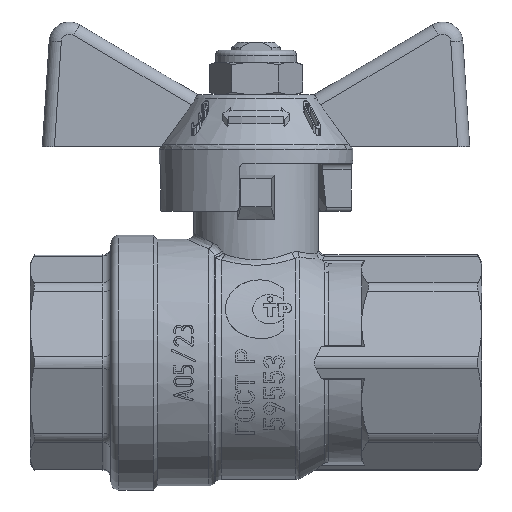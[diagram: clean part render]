
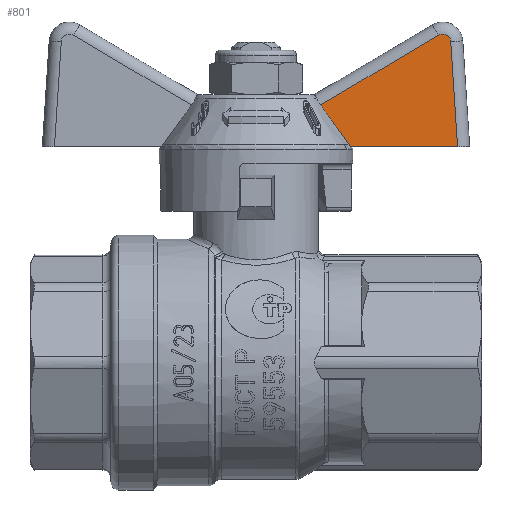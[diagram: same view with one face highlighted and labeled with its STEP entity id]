
A CAD part, left-side view. The second image highlights one B-rep face of the part: STEP entity #801.
In plain terms, the highlighted planar face has unit normal (-1, 0, 0).
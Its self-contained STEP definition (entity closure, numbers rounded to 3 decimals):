
#801=ADVANCED_FACE('',(#7025),#7027,.T.);
#7025=FACE_BOUND('',#7026,.T.);
#7026=EDGE_LOOP('',(#16450,#16451,#16452,#16453,#16454,#16455));
#7027=PLANE('',#7028);
#7028=AXIS2_PLACEMENT_3D('',#7029,#7030,#7031);
#7029=CARTESIAN_POINT('',(-2.5,-15.5,26.75));
#7030=DIRECTION('',(-1.,0.,0.));
#7031=DIRECTION('',(0.,-1.,0.));
#16450=ORIENTED_EDGE('',*,*,#22059,.T.);
#16451=ORIENTED_EDGE('',*,*,#22060,.T.);
#16452=ORIENTED_EDGE('',*,*,#22061,.T.);
#16453=ORIENTED_EDGE('',*,*,#22062,.T.);
#16454=ORIENTED_EDGE('',*,*,#21884,.T.);
#16455=ORIENTED_EDGE('',*,*,#22055,.T.);
#21884=EDGE_CURVE('',#27483,#27481,#27484,.F.);
#22055=EDGE_CURVE('',#27481,#27707,#27710,.T.);
#22059=EDGE_CURVE('',#27707,#27716,#27717,.T.);
#22060=EDGE_CURVE('',#27716,#27718,#27719,.T.);
#22061=EDGE_CURVE('',#27718,#27720,#27721,.T.);
#22062=EDGE_CURVE('',#27720,#27483,#27722,.T.);
#27481=VERTEX_POINT('',#48881);
#27483=VERTEX_POINT('',#48886);
#27484=B_SPLINE_CURVE_WITH_KNOTS('',3,
(#48887,#48888,#48889,#48890,#48891,#48892,#48893,#48894,#48895,#48896),
.UNSPECIFIED.,.F.,.F.,
(4,1,1,1,1,1,1,4),
(0.,0.213,0.411,0.593,0.639,0.784,
0.926,1.),
.UNSPECIFIED.);
#27707=VERTEX_POINT('',#49705);
#27710=LINE('',#49711,#49712);
#27716=VERTEX_POINT('',#49726);
#27717=LINE('',#49727,#49728);
#27718=VERTEX_POINT('',#49730);
#27719=CIRCLE('',#49731,1.);
#27720=VERTEX_POINT('',#49735);
#27721=LINE('',#49736,#49737);
#27722=B_SPLINE_CURVE_WITH_KNOTS('',3,
(#49739,#49740,#49741,#49742,#49743,#49744,#49745,#49746,#49747,#49748,#49749,#49750,
#49751,#49752),
.UNSPECIFIED.,.F.,.F.,
(4,1,1,1,1,1,1,1,1,1,1,4),
(0.,0.106,0.107,0.24,0.317,0.427,
0.505,0.634,0.678,0.833,0.882,
1.),
.UNSPECIFIED.);
#48881=CARTESIAN_POINT('',(-2.5,-27.186,26.75));
#48886=CARTESIAN_POINT('',(-2.5,-27.055,27.007));
#48887=CARTESIAN_POINT('',(-2.5,-27.186,26.75));
#48888=CARTESIAN_POINT('',(-2.5,-27.179,26.769));
#48889=CARTESIAN_POINT('',(-2.5,-27.165,26.807));
#48890=CARTESIAN_POINT('',(-2.5,-27.142,26.859));
#48891=CARTESIAN_POINT('',(-2.5,-27.123,26.896));
#48892=CARTESIAN_POINT('',(-2.5,-27.106,26.927));
#48893=CARTESIAN_POINT('',(-2.5,-27.09,26.955));
#48894=CARTESIAN_POINT('',(-2.5,-27.071,26.984));
#48895=CARTESIAN_POINT('',(-2.5,-27.059,27.001));
#48896=CARTESIAN_POINT('',(-2.5,-27.055,27.007));
#49705=CARTESIAN_POINT('',(-2.5,-40.497,26.75));
#49711=CARTESIAN_POINT('',(-2.5,-27.186,26.75));
#49712=VECTOR('',#49713,1.);
#49713=DIRECTION('',(0.,-1.,0.));
#49726=CARTESIAN_POINT('',(-2.5,-39.654,39.814));
#49727=CARTESIAN_POINT('',(-2.5,-40.497,26.75));
#49728=VECTOR('',#49729,1.);
#49729=DIRECTION('',(0.,0.064,0.998));
#49730=CARTESIAN_POINT('',(-2.5,-38.147,40.611));
#49731=AXIS2_PLACEMENT_3D('',#49732,#49733,#49734);
#49732=CARTESIAN_POINT('',(-2.5,-38.656,39.75));
#49733=DIRECTION('',(-1.,0.,0.));
#49734=DIRECTION('',(0.,-0.998,0.064));
#49735=CARTESIAN_POINT('',(-2.5,-23.513,31.959));
#49736=CARTESIAN_POINT('',(-2.5,-38.147,40.611));
#49737=VECTOR('',#49738,1.);
#49738=DIRECTION('',(0.,0.861,-0.509));
#49739=CARTESIAN_POINT('',(-2.5,-23.513,31.959));
#49740=CARTESIAN_POINT('',(-2.5,-23.639,31.785));
#49741=CARTESIAN_POINT('',(-2.5,-23.766,31.609));
#49742=CARTESIAN_POINT('',(-2.5,-24.051,31.214));
#49743=CARTESIAN_POINT('',(-2.5,-24.302,30.867));
#49744=CARTESIAN_POINT('',(-2.5,-24.68,30.341));
#49745=CARTESIAN_POINT('',(-2.5,-24.994,29.903));
#49746=CARTESIAN_POINT('',(-2.5,-25.368,29.379));
#49747=CARTESIAN_POINT('',(-2.5,-25.665,28.963));
#49748=CARTESIAN_POINT('',(-2.5,-26.05,28.422));
#49749=CARTESIAN_POINT('',(-2.5,-26.343,28.011));
#49750=CARTESIAN_POINT('',(-2.5,-26.721,27.479));
#49751=CARTESIAN_POINT('',(-2.5,-26.917,27.201));
#49752=CARTESIAN_POINT('',(-2.5,-27.055,27.007));
